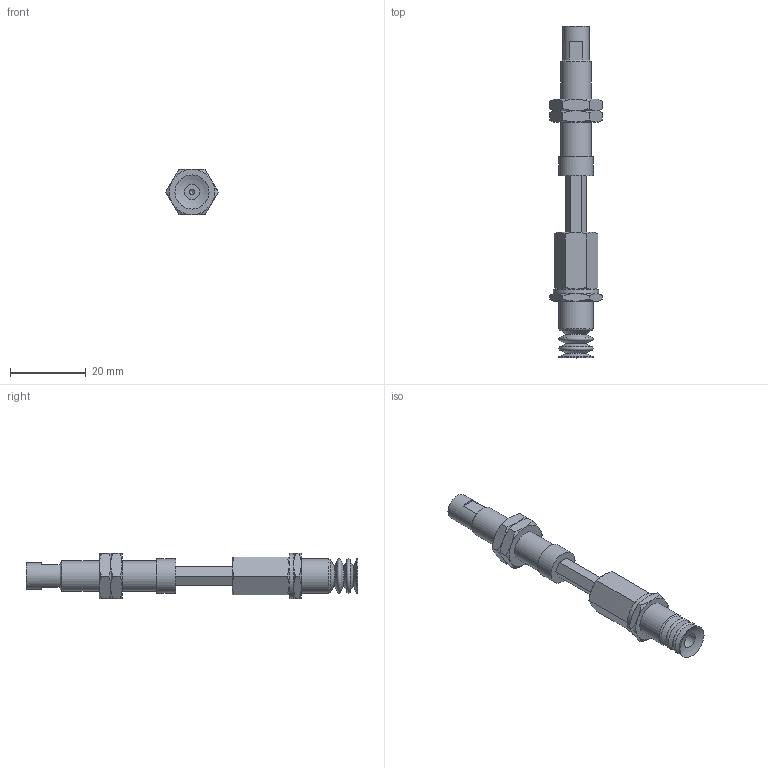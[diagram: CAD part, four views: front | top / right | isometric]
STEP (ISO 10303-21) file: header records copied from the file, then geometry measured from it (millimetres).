
FILE_DESCRIPTION(('STEP AP203'),'1');
FILE_NAME('.stp','2025-08-27T01:48:50',(' '),(' '),'Spatial InterOp 3D',' ',' ');
FILE_SCHEMA(('CONFIG_CONTROL_DESIGN'));
Length unit declared in the file: millimetre
Products named in the file (7): BNABPCTH-10-15-※; ADAPTER; NAPCTH-10-15-MBODY; Adapter_napc-10-T; Nut napc_h-10-15; NAPCTH-10-15-FBODY; BPCG-10-※
Assembly tree (7 placements, depth 2):
  BNABPCTH-10-15-※
    ADAPTER
    NAPCTH-10-15-MBODY
    Adapter_napc-10-T
    Nut napc_h-10-15  x2
    NAPCTH-10-15-FBODY
    BPCG-10-※
Bounding box: 13.86 x 87.7 x 12 mm (x, y, z)
Volume: 4936.4 mm3; surface area: 5384.8 mm2
Topology: 7 solids, 7 shells, 152 faces, 317 edges, 186 vertices
Faces by surface type: cone 64, plane 61, cylinder 17, torus 8, sphere 2
Full cylindrical faces by diameter (mm): 1.25 x1, 4 x1, 4.134 x2, 5 x5, 7 x1, 7.188 x2, 8 x1, 9 x3, 12 x1
Entity records: 3904 total; most frequent: CARTESIAN_POINT 1058, DIRECTION 518, ORIENTED_EDGE 450, AXIS2_PLACEMENT_3D 228, EDGE_CURVE 225, EDGE_LOOP 184, VERTEX_POINT 156, FACE_OUTER_BOUND 155
